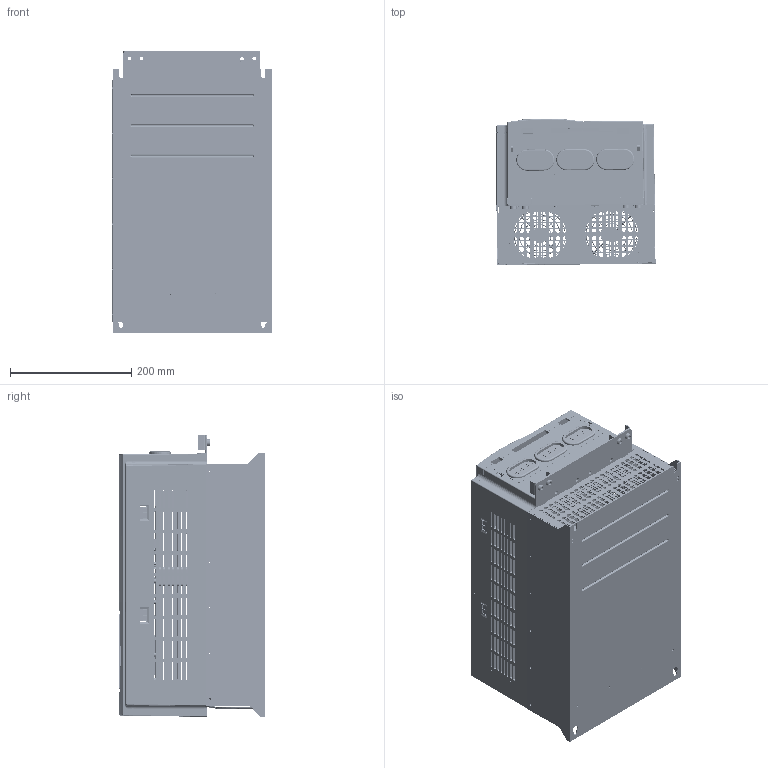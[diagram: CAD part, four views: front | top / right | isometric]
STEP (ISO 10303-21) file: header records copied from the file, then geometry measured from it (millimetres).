
FILE_DESCRIPTION((''),'2;1');
FILE_NAME('020170104-E7-3D_ASM_ASM','2023-05-19T',('think'),(''),'CREO PARAMETRIC BY PTC INC, 2016130','CREO PARAMETRIC BY PTC INC, 2016130','');
FILE_SCHEMA(('CONFIG_CONTROL_DESIGN'));
Products named in the file (40): SHANGGAI1_5; SHANGGAI2_5; CHUXIANLAN12_5; X8018_5; KE21_6; KE2_5; KE13_5; 03010111_5_1; 03010111_5_2; 03010111_5_ASM; C03Y00_0302AA_5; 0320-JIEDIDANGPIAN_5; XIANGTI_ASM_6_ASM; C03Y00_0302_5; 9238FENGJI_1_5_1; 9238FENGJI_1_5_2; 9238FENGJI_1_5_ASM; E7_AF1_ASM_5_ASM; GLDUANZI-BHQ22_5_1; GLDUANZI-BHQ22_5_2; GLDUANZI-BHQ22_5_ASM; CONTRL_BOTTOM_1_5; CONTRL_TOP_STP_1_5; MO_1_5; CONTROL_PCB_1_5; JA05-081_1_5; YH-817_1_5; RJ45_ASM_1_ASM_5_ASM; ST2_9_1_5; CONTROL_BOX_ASM_1_ASM_5_ASM; CONTROL_BOX_ASM_ASM_5_ASM; 0601_2_1_1; M3X5X6_1_1_1_1; 0601_ASM_2_ASM_1_ASM_1_ASM; E7A07-0601-G01_ASM_2_ASM_1_ASM__ASM; E7A07-0601-G01-NEW_ASM_1_ASM_1_ASM; E7A07-0601-G02_ASM_1_ASM; 020170104-E7-3D_ASM_14_ASM; FENG_JI_ZHAO9215; 020170104-E7-3D_ASM_ASM
Assembly tree (52 placements, depth 7):
  020170104-E7-3D_ASM_ASM
    020170104-E7-3D_ASM_14_ASM
      SHANGGAI1_5
      SHANGGAI2_5
      CHUXIANLAN12_5
      X8018_5  x3
      XIANGTI_ASM_6_ASM
        KE21_6
        KE2_5
        KE13_5
        03010111_5_ASM  x2
          03010111_5_1
          03010111_5_2
        C03Y00_0302AA_5
        0320-JIEDIDANGPIAN_5  x2
      C03Y00_0302_5
      E7_AF1_ASM_5_ASM
        9238FENGJI_1_5_ASM  x2
          9238FENGJI_1_5_1
          9238FENGJI_1_5_2
      GLDUANZI-BHQ22_5_ASM
        GLDUANZI-BHQ22_5_1
        GLDUANZI-BHQ22_5_2
      CONTROL_BOX_ASM_ASM_5_ASM
        CONTROL_BOX_ASM_1_ASM_5_ASM
          CONTRL_BOTTOM_1_5
          CONTRL_TOP_STP_1_5
          MO_1_5
          CONTROL_PCB_1_5
          RJ45_ASM_1_ASM_5_ASM
            JA05-081_1_5  x2
            YH-817_1_5
          ST2_9_1_5  x6
      E7A07-0601-G02_ASM_1_ASM
        E7A07-0601-G01-NEW_ASM_1_ASM_1_ASM
          E7A07-0601-G01_ASM_2_ASM_1_ASM__ASM
            0601_ASM_2_ASM_1_ASM_1_ASM
              0601_2_1_1
              M3X5X6_1_1_1_1  x2
    FENG_JI_ZHAO9215  x2
Bounding box: 262.85 x 241.62 x 465 mm (x, y, z)
Volume: 2320705.8 mm3; surface area: 1898174.1 mm2
Topology: 53 solids, 53 shells, 6585 faces, 19067 edges, 12746 vertices
Faces by surface type: plane 4177, cylinder 1938, torus 220, bspline 139, cone 83, sphere 28
Entity records: 207143 total; most frequent: CARTESIAN_POINT 48631, ORIENTED_EDGE 34026, DIRECTION 31031, EDGE_CURVE 17013, VECTOR 11945, LINE 11945, VERTEX_POINT 11424, AXIS2_PLACEMENT_3D 9543
